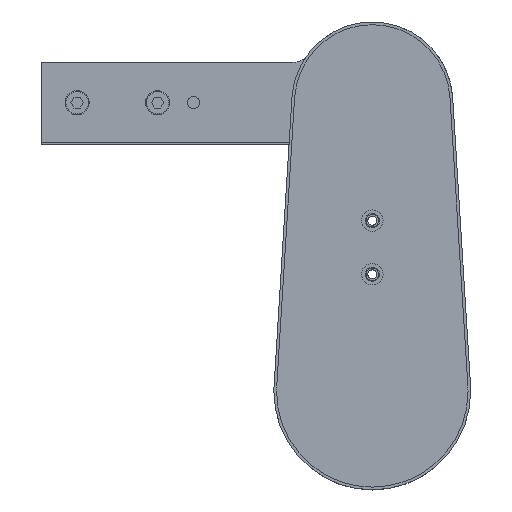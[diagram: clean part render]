
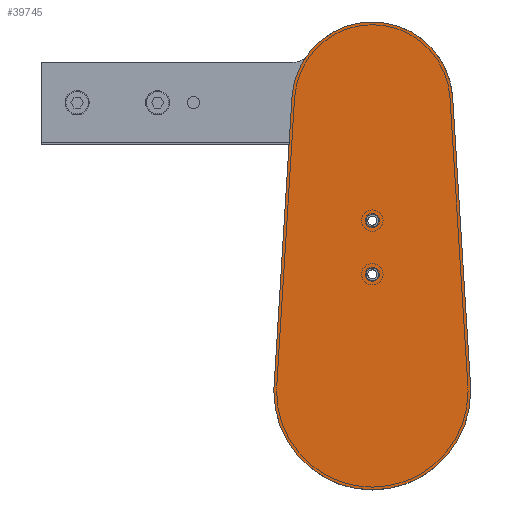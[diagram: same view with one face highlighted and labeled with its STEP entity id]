
A CAD part, top view. The second image highlights one B-rep face of the part: STEP entity #39745.
In plain terms, the highlighted planar face has unit normal (0, 0, 1) as drawn and (0, 0, -1) by its records, which use the part's own axes.
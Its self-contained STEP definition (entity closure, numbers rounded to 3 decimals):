
#259 = ORIENTED_EDGE ( 'NONE', *, *, #78643, .F. ) ;
#811 = VERTEX_POINT ( 'NONE', #34686 ) ;
#1774 = EDGE_CURVE ( 'NONE', #76276, #47598, #2650, .T. ) ;
#1910 = CARTESIAN_POINT ( 'NONE',  ( 44.914, 164.286, 0. ) ) ;
#2650 = CIRCLE ( 'NONE', #45523, 3.5 ) ;
#3072 = CARTESIAN_POINT ( 'NONE',  ( -44.914, 164.286, 0. ) ) ;
#3414 = FACE_BOUND ( 'NONE', #70263, .T. ) ;
#3728 = CARTESIAN_POINT ( 'NONE',  ( 0., 0., 0. ) ) ;
#4278 = AXIS2_PLACEMENT_3D ( 'NONE', #25237, #12551, #5207 ) ;
#4958 = LINE ( 'NONE', #1910, #19136 ) ;
#5207 = DIRECTION ( 'NONE',  ( 1., 0., 0. ) ) ;
#8553 = CARTESIAN_POINT ( 'NONE',  ( 3.5, 65.5, 0. ) ) ;
#9211 = CARTESIAN_POINT ( 'NONE',  ( 0., 95.5, 0. ) ) ;
#9679 = DIRECTION ( 'NONE',  ( 0., 0., 1. ) ) ;
#10238 = DIRECTION ( 'NONE',  ( 0., 0., 1. ) ) ;
#10291 = CARTESIAN_POINT ( 'NONE',  ( -54.894, 3.406, 0. ) ) ;
#12551 = DIRECTION ( 'NONE',  ( 0., 0., -1. ) ) ;
#13260 = CARTESIAN_POINT ( 'NONE',  ( 0., 161.5, 0. ) ) ;
#13849 = AXIS2_PLACEMENT_3D ( 'NONE', #27942, #27644, #33872 ) ;
#14549 = CIRCLE ( 'NONE', #56781, 55. ) ;
#14731 = LINE ( 'NONE', #3072, #50065 ) ;
#14926 = DIRECTION ( 'NONE',  ( -0.062, 0.998, 0. ) ) ;
#17816 = CARTESIAN_POINT ( 'NONE',  ( 55., 0., 0. ) ) ;
#18351 = ORIENTED_EDGE ( 'NONE', *, *, #21856, .F. ) ;
#18537 = VERTEX_POINT ( 'NONE', #17816 ) ;
#19136 = VECTOR ( 'NONE', #14926, 1000. ) ;
#19436 = DIRECTION ( 'NONE',  ( 0., 0., 1. ) ) ;
#21856 = EDGE_CURVE ( 'NONE', #811, #18537, #79851, .T. ) ;
#21904 = DIRECTION ( 'NONE',  ( 1., 0., 0. ) ) ;
#22439 = CARTESIAN_POINT ( 'NONE',  ( -3.5, 65.5, 0. ) ) ;
#23407 = CIRCLE ( 'NONE', #4278, 3.5 ) ;
#23474 = AXIS2_PLACEMENT_3D ( 'NONE', #48672, #9679, #61422 ) ;
#23655 = EDGE_CURVE ( 'NONE', #47598, #76276, #53251, .T. ) ;
#25237 = CARTESIAN_POINT ( 'NONE',  ( 0., 65.5, 0. ) ) ;
#26509 = EDGE_CURVE ( 'NONE', #27794, #77104, #23407, .T. ) ;
#27644 = DIRECTION ( 'NONE',  ( 0., 0., -1. ) ) ;
#27794 = VERTEX_POINT ( 'NONE', #22439 ) ;
#27942 = CARTESIAN_POINT ( 'NONE',  ( 0., 95.5, 0. ) ) ;
#29836 = CARTESIAN_POINT ( 'NONE',  ( -3.5, 95.5, 0. ) ) ;
#31536 = ORIENTED_EDGE ( 'NONE', *, *, #41019, .F. ) ;
#31565 = DIRECTION ( 'NONE',  ( 1., 0., 0. ) ) ;
#32111 = AXIS2_PLACEMENT_3D ( 'NONE', #66588, #73020, #79796 ) ;
#32252 = CARTESIAN_POINT ( 'NONE',  ( 54.894, 3.406, 0. ) ) ;
#32879 = CARTESIAN_POINT ( 'NONE',  ( 0., 161.5, 0. ) ) ;
#33872 = DIRECTION ( 'NONE',  ( 1., 0., 0. ) ) ;
#33983 = EDGE_LOOP ( 'NONE', ( #55365, #259, #73194, #18351, #31536, #46276 ) ) ;
#34392 = CARTESIAN_POINT ( 'NONE',  ( -44.914, 164.286, 0. ) ) ;
#34686 = CARTESIAN_POINT ( 'NONE',  ( -55., 0., 0. ) ) ;
#34812 = CIRCLE ( 'NONE', #74233, 55. ) ;
#35734 = DIRECTION ( 'NONE',  ( 0., 0., -1. ) ) ;
#36375 = VERTEX_POINT ( 'NONE', #32252 ) ;
#36770 = EDGE_CURVE ( 'NONE', #79733, #37093, #83643, .T. ) ;
#37093 = VERTEX_POINT ( 'NONE', #34392 ) ;
#38414 = ORIENTED_EDGE ( 'NONE', *, *, #23655, .F. ) ;
#38887 = EDGE_CURVE ( 'NONE', #37093, #78146, #14731, .T. ) ;
#39105 = ORIENTED_EDGE ( 'NONE', *, *, #1774, .F. ) ;
#39745 = ADVANCED_FACE ( 'NONE', ( #68180, #3414, #62084 ), #78679, .F. ) ;
#39831 = CARTESIAN_POINT ( 'NONE',  ( 0., 0., 0. ) ) ;
#41019 = EDGE_CURVE ( 'NONE', #78146, #811, #14549, .T. ) ;
#42128 = CARTESIAN_POINT ( 'NONE',  ( 44.914, 164.286, 0. ) ) ;
#45523 = AXIS2_PLACEMENT_3D ( 'NONE', #9211, #35734, #21904 ) ;
#46276 = ORIENTED_EDGE ( 'NONE', *, *, #38887, .F. ) ;
#46344 = DIRECTION ( 'NONE',  ( 0., 0., 1. ) ) ;
#46388 = AXIS2_PLACEMENT_3D ( 'NONE', #32879, #52397, #46731 ) ;
#46731 = DIRECTION ( 'NONE',  ( 1., 0., 0. ) ) ;
#47598 = VERTEX_POINT ( 'NONE', #29836 ) ;
#48672 = CARTESIAN_POINT ( 'NONE',  ( 0., 0., 0. ) ) ;
#50065 = VECTOR ( 'NONE', #54764, 1000. ) ;
#52397 = DIRECTION ( 'NONE',  ( 0., 0., 1. ) ) ;
#52471 = ORIENTED_EDGE ( 'NONE', *, *, #26509, .F. ) ;
#53251 = CIRCLE ( 'NONE', #13849, 3.5 ) ;
#54764 = DIRECTION ( 'NONE',  ( -0.062, -0.998, 0. ) ) ;
#55365 = ORIENTED_EDGE ( 'NONE', *, *, #36770, .F. ) ;
#55430 = DIRECTION ( 'NONE',  ( 1., 0., 0. ) ) ;
#56781 = AXIS2_PLACEMENT_3D ( 'NONE', #3728, #10238, #55430 ) ;
#57376 = DIRECTION ( 'NONE',  ( 1., 0., 0. ) ) ;
#57546 = CARTESIAN_POINT ( 'NONE',  ( 3.5, 95.5, 0. ) ) ;
#58594 = CIRCLE ( 'NONE', #32111, 3.5 ) ;
#61422 = DIRECTION ( 'NONE',  ( 1., 0., 0. ) ) ;
#62084 = FACE_OUTER_BOUND ( 'NONE', #33983, .T. ) ;
#66588 = CARTESIAN_POINT ( 'NONE',  ( 0., 65.5, 0. ) ) ;
#68180 = FACE_BOUND ( 'NONE', #81270, .T. ) ;
#68629 = ORIENTED_EDGE ( 'NONE', *, *, #68995, .F. ) ;
#68995 = EDGE_CURVE ( 'NONE', #77104, #27794, #58594, .T. ) ;
#70263 = EDGE_LOOP ( 'NONE', ( #68629, #52471 ) ) ;
#73020 = DIRECTION ( 'NONE',  ( 0., 0., -1. ) ) ;
#73194 = ORIENTED_EDGE ( 'NONE', *, *, #82219, .F. ) ;
#74233 = AXIS2_PLACEMENT_3D ( 'NONE', #39831, #46344, #57376 ) ;
#76276 = VERTEX_POINT ( 'NONE', #57546 ) ;
#77104 = VERTEX_POINT ( 'NONE', #8553 ) ;
#78146 = VERTEX_POINT ( 'NONE', #10291 ) ;
#78643 = EDGE_CURVE ( 'NONE', #36375, #79733, #4958, .T. ) ;
#78679 = PLANE ( 'NONE',  #46388 ) ;
#79733 = VERTEX_POINT ( 'NONE', #42128 ) ;
#79796 = DIRECTION ( 'NONE',  ( 1., 0., 0. ) ) ;
#79851 = CIRCLE ( 'NONE', #23474, 55. ) ;
#80432 = AXIS2_PLACEMENT_3D ( 'NONE', #13260, #19436, #31565 ) ;
#81270 = EDGE_LOOP ( 'NONE', ( #39105, #38414 ) ) ;
#82219 = EDGE_CURVE ( 'NONE', #18537, #36375, #34812, .T. ) ;
#83643 = CIRCLE ( 'NONE', #80432, 45. ) ;
